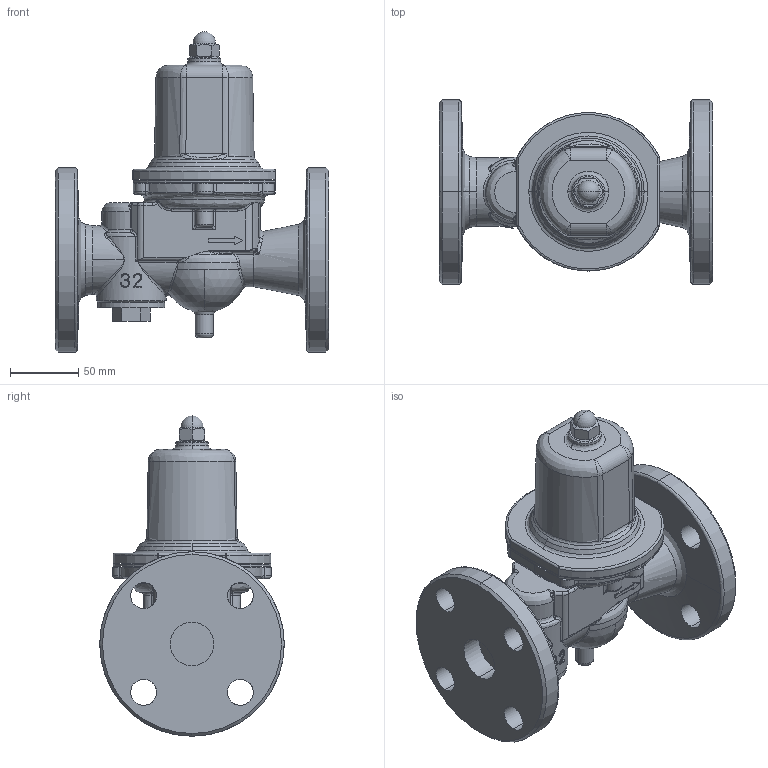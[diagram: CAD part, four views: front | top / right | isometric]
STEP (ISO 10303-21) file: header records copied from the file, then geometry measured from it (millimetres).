
FILE_DESCRIPTION( (''), '2;1');
FILE_NAME ('PC1027.4860.GD-27-NE　32A_19923.stp','2025-07-25T16:59:27',(''),(''),'spGate 19.8.4 (****-****-****-****)','','');
FILE_SCHEMA (('AUTOMOTIVE_DESIGN'));
Length unit declared in the file: millimetre
Products named in the file (6): Assembly; GD-26-NE ダイヤフラム 32-40A; GD-26-NE 保護筒 32-40A; GD-26-NE 六角袋ナット 32-50A; GD-26-NE ストレーナキャップ 32-50A; GD-27-NE 弁箱 32A
Assembly tree (5 placements, depth 2):
  Assembly
    GD-26-NE ダイヤフラム 32-40A
    GD-26-NE 保護筒 32-40A
    GD-26-NE 六角袋ナット 32-50A
    GD-26-NE ストレーナキャップ 32-50A
    GD-27-NE 弁箱 32A
Bounding box: 200 x 135 x 234.5 mm (x, y, z)
Volume: 1477472.1 mm3; surface area: 190172.6 mm2
Topology: 5 solids, 5 shells, 476 faces, 1177 edges, 688 vertices
Faces by surface type: bspline 245, cylinder 137, plane 67, sphere 27
Entity records: 34103 total; most frequent: CARTESIAN_POINT 15696, ORIENTED_EDGE 2280, COLOUR_RGB 1621, PRESENTATION_STYLE_ASSIGNMENT 1621, STYLED_ITEM 1621, DIRECTION 1495, EDGE_CURVE 1140, DRAUGHTING_PRE_DEFINED_CURVE_FONT 1140
